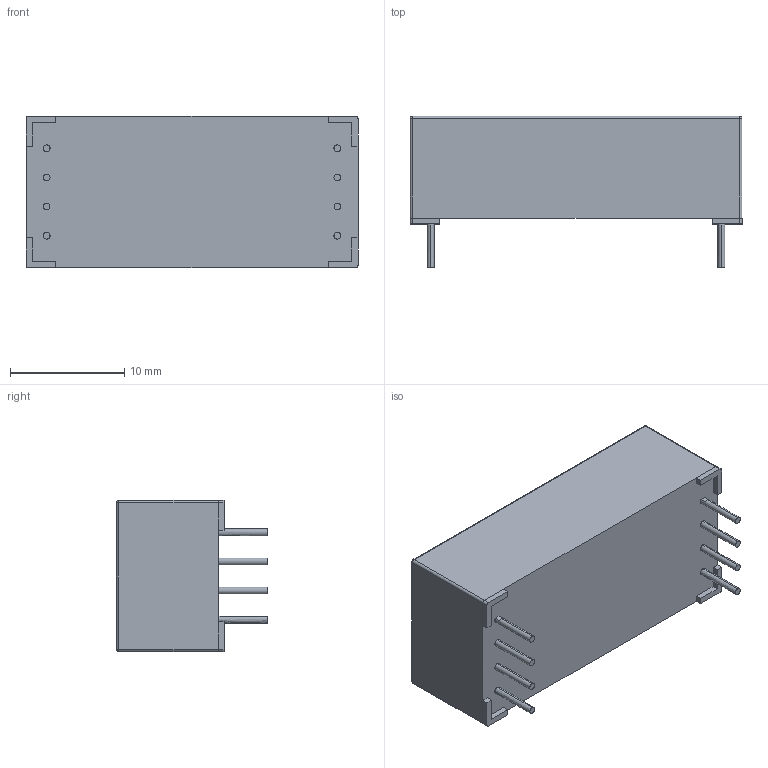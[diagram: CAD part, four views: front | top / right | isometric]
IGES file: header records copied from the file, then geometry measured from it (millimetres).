
Start section: SolidWorks IGES file using analytic representation for surfaces
Global section: file name: T:\Relays in Solidworks\Batch 3\89-2-C.IGS; native system: SolidWorks 2009; preprocessor: SolidWorks 2009; author: alex.leming; date: 100629.145511; units: millimetre
Bounding box: 29 x 13.2 x 13.2 mm (x, y, z)
Surface area: 1591.2 mm2 (no closed solid volume)
Topology: 0 solids, 0 shells, 734 faces, 7637 edges, 7637 vertices
Faces by surface type: bspline 702, revolution 32
